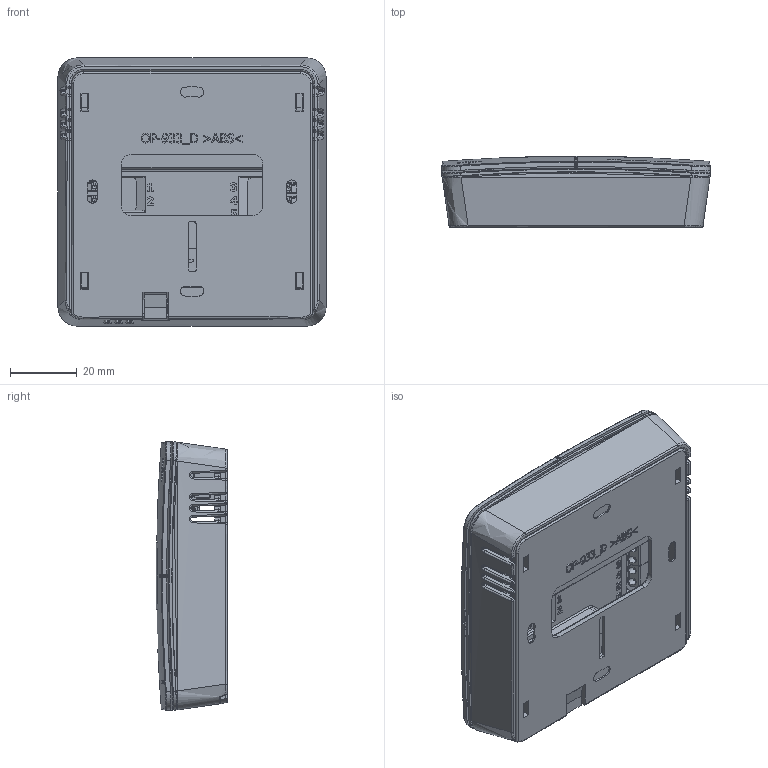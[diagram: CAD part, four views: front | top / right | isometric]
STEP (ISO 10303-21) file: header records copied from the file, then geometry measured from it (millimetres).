
FILE_DESCRIPTION(/* description */ ('','CAx-IF Rec.Pracs.---Representation and Presentation of Product Manufacturing Information (PMI)---4.0---2014-10-13'),/* implementation_level */ '2;1');
FILE_NAME(/* name */ 'R-S1.step',/* time_stamp */ '2025-02-25T07:52:32+01:00',/* author */ (''),/* organization */ (''),/* preprocessor_version */ 'ST-DEVELOPER v20',/* originating_system */ 'Autodesk Translation Framework v13.20.0.188',/* authorisation */ '');
FILE_SCHEMA (('AP242_MANAGED_MODEL_BASED_3D_ENGINEERING_MIM_LF { 1 0 10303 442 3 1 4 }','AP242_MANAGED_MODEL_BASED_3D_ENGINEERING_MIM_LF { 1 0 10303 442 1 1 4 }'));
Products named in the file (41): RS-1; ST-1008_2_F v1; Packages; 2X02; ENS210_PASTE; NTC-10_POZ; PAWN_SMD_T7; TQFP100; Model; SJK-6I; MINIMELF; XT506622B; FUSE_2410; SOT223; C_POL_RAST_3.5_FI_8_H_11.5; TO230P990X240-3N; R0603; DT-06_1; SMA; C0805; R0805; R1206; FIDUCIAL_G10; ANGLE-SW1-16_1; C0402; C0603; R0805 (1); C0603 (1); DTSH_1; OP-933 wer.3; OP-933_E; OP-933_H; R-8x-POKRYWA; OP-933 wer.1; OP-933_A; OP-933_E_1; OP-933_D; OP-933_B; Komponent32; logo 33mm v1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
Assembly tree (82 placements, depth 5):
  RS-1
    ST-1008_2_F v1
      Packages
        2X02
        ENS210_PASTE
        NTC-10_POZ
        PAWN_SMD_T7
        TQFP100
          Model
        SJK-6I
        MINIMELF
        SMA  x4
        XT506622B
        FUSE_2410
        SOT223
        C0805  x5
        C_POL_RAST_3.5_FI_8_H_11.5
        R0805  x4
        R1206  x3
        TO230P990X240-3N
        FIDUCIAL_G10  x4
        ANGLE-SW1-16_1  x4
        C0402  x2
        C0603  x13
        R0603
        R0805 (1)  x6
        C0603 (1)  x2
        DT-06_1
        DTSH_1  x4
    OP-933 wer.3
      OP-933_E
      OP-933_H
    R-8x-POKRYWA
      OP-933 wer.1
        OP-933_A
        OP-933_E_1
        OP-933_D
        OP-933_B
    wago_WAGO2060  x3
    Komponent32
    logo 33mm v1
Bounding box: 80.61 x 21.48 x 80.61 mm (x, y, z)
Volume: 58545.1 mm3; surface area: 80789.6 mm2
Topology: 262 solids, 262 shells, 8044 faces, 20535 edges, 13125 vertices
Faces by surface type: plane 4475, cylinder 1629, bspline 1499, sphere 292, cone 110, torus 39
Full cylindrical faces by diameter (mm): 0.3 x1, 0.55 x27, 0.585 x3, 0.6 x2, 1.36 x2, 1.362 x1, 1.41 x1, 1.7 x2, 2.25 x6
Entity records: 237315 total; most frequent: CARTESIAN_POINT 91044, ORIENTED_EDGE 31758, DIRECTION 26887, EDGE_CURVE 15879, VERTEX_POINT 10296, LINE 9877, VECTOR 9877, AXIS2_PLACEMENT_3D 8505
